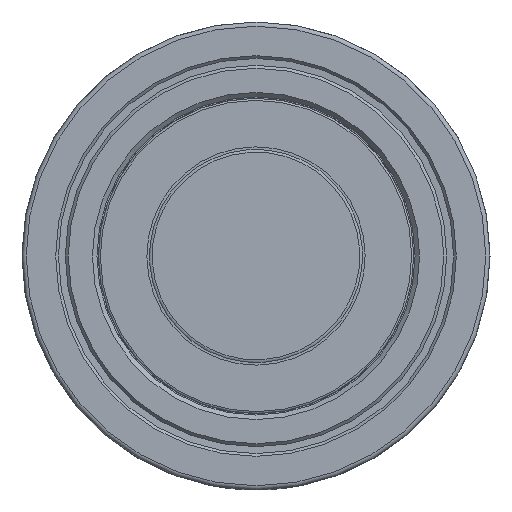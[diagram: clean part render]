
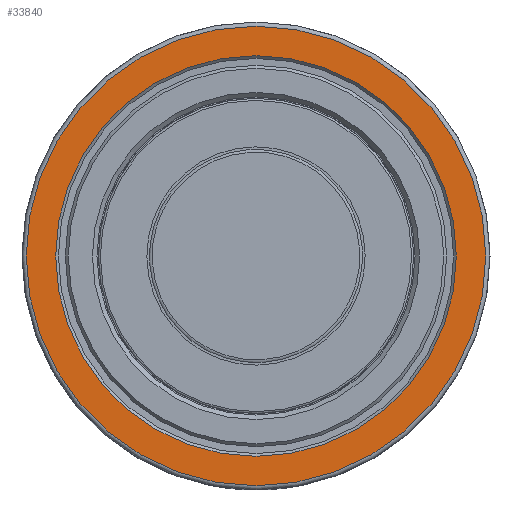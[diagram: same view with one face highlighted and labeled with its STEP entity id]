
A CAD part, left-side view. The second image highlights one B-rep face of the part: STEP entity #33840.
In plain terms, the highlighted planar face has unit normal (-1, 0, 0).
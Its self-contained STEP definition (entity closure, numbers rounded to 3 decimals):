
#8007=FACE_BOUND('',#11053,.T.);
#9205=FACE_OUTER_BOUND('',#11052,.T.);
#11052=EDGE_LOOP('',(#26970));
#11053=EDGE_LOOP('',(#26971));
#11794=CIRCLE('',#35099,19.05);
#11797=CIRCLE('',#35104,21.85);
#14228=VERTEX_POINT('',#64898);
#14231=VERTEX_POINT('',#64908);
#18669=EDGE_CURVE('',#14228,#14228,#11794,.T.);
#18674=EDGE_CURVE('',#14231,#14231,#11797,.T.);
#26970=ORIENTED_EDGE('',*,*,#18674,.F.);
#26971=ORIENTED_EDGE('',*,*,#18669,.F.);
#30709=PLANE('',#35103);
#33840=ADVANCED_FACE('',(#9205,#8007),#30709,.T.);
#35099=AXIS2_PLACEMENT_3D('',#64899,#38046,#38047);
#35103=AXIS2_PLACEMENT_3D('',#64907,#38056,#38057);
#35104=AXIS2_PLACEMENT_3D('',#64909,#38058,#38059);
#38046=DIRECTION('center_axis',(-1.,0.,0.));
#38047=DIRECTION('ref_axis',(0.,0.,
-1.));
#38056=DIRECTION('center_axis',(-1.,0.,0.));
#38057=DIRECTION('ref_axis',(0.,-1.,0.));
#38058=DIRECTION('center_axis',(1.,0.,0.));
#38059=DIRECTION('ref_axis',(0.,0.,
-1.));
#64898=CARTESIAN_POINT('',(-29.512,0.,19.05));
#64899=CARTESIAN_POINT('Origin',(-29.512,0.,
0.));
#64907=CARTESIAN_POINT('Origin',(-29.512,0.,
22.25));
#64908=CARTESIAN_POINT('',(-29.512,-21.85,0.));
#64909=CARTESIAN_POINT('Origin',(-29.512,0.,
0.));
